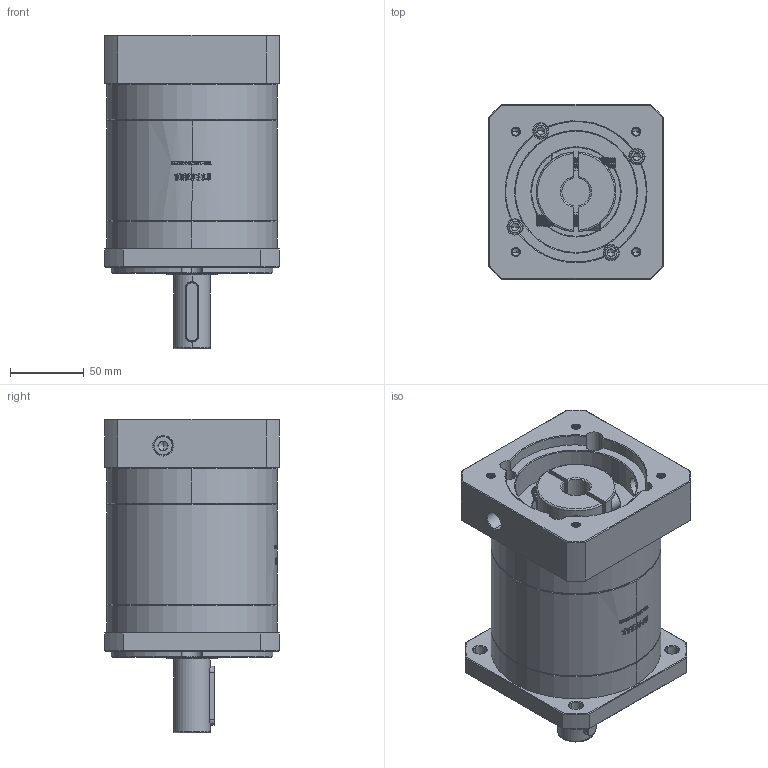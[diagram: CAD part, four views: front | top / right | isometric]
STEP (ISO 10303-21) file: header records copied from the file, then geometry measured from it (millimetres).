
FILE_DESCRIPTION (( 'STEP AP214' ), '1' );
FILE_NAME ('ZF120A-D25-L2-19-95-115-M6.step', '2023-03-07T09:29:14', ( '' ), ( '' ), 'SwSTEP 2.0', 'SolidWorks 2016', '' );
FILE_SCHEMA (( 'AUTOMOTIVE_DESIGN' ));
Length unit declared in the file: millimetre
Products named in the file (1): ZF120A-D25-L2-19-95-115-M6
Bounding box: 118 x 118 x 212 mm (x, y, z)
Volume: 1660253 mm3; surface area: 167810.5 mm2
Topology: 6 solids, 6 shells, 1960 faces, 5152 edges, 3286 vertices
Faces by surface type: plane 857, cylinder 421, bspline 341, cone 341
Entity records: 106863 total; most frequent: CARTESIAN_POINT 40745, ORIENTED_EDGE 10244, DIRECTION 7959, EDGE_CURVE 5122, VERTEX_POINT 3286, LINE 2751, VECTOR 2751, AXIS2_PLACEMENT_3D 2604
